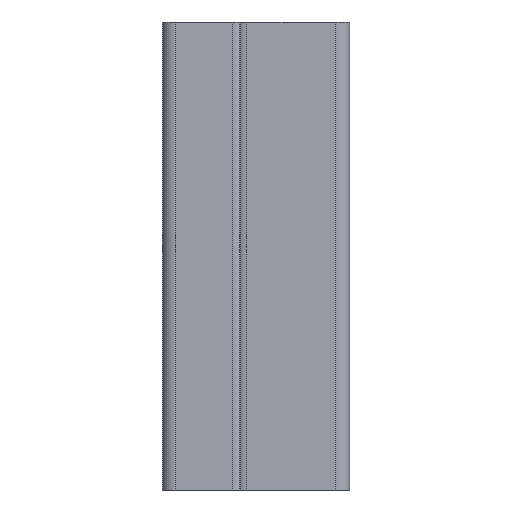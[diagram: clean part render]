
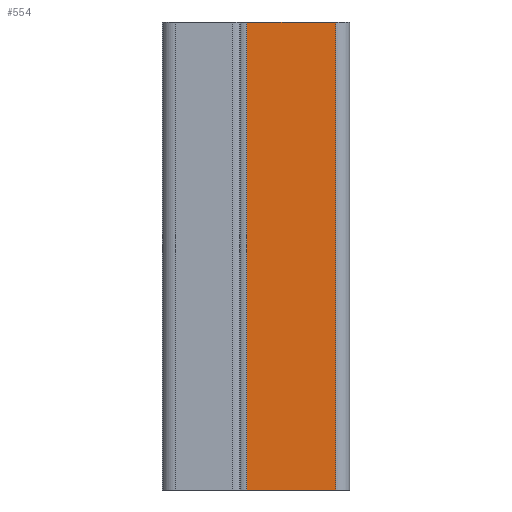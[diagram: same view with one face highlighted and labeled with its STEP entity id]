
A CAD part, left-side view. The second image highlights one B-rep face of the part: STEP entity #554.
In plain terms, the highlighted planar face has unit normal (-1, 0, 0).
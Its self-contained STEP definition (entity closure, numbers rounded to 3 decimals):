
#7 = EDGE_CURVE ( 'NONE', #1720, #1579, #39, .T. ) ;
#39 = LINE ( 'NONE', #763, #499 ) ;
#101 = CARTESIAN_POINT ( 'NONE',  ( -12.5, 9.5, 100. ) ) ;
#125 = EDGE_CURVE ( 'NONE', #539, #1720, #444, .T. ) ;
#153 = FACE_OUTER_BOUND ( 'NONE', #927, .T. ) ;
#233 = DIRECTION ( 'NONE',  ( 1., 0., 0. ) ) ;
#315 = VECTOR ( 'NONE', #1785, 1000. ) ;
#437 = CARTESIAN_POINT ( 'NONE',  ( -12.5, 9.5, 100. ) ) ;
#444 = LINE ( 'NONE', #1024, #1328 ) ;
#484 = CARTESIAN_POINT ( 'NONE',  ( -12.5, -9.5, 0. ) ) ;
#499 = VECTOR ( 'NONE', #1813, 1000. ) ;
#539 = VERTEX_POINT ( 'NONE', #101 ) ;
#554 = ADVANCED_FACE ( 'NONE', ( #153 ), #1871, .F. ) ;
#649 = LINE ( 'NONE', #437, #1862 ) ;
#763 = CARTESIAN_POINT ( 'NONE',  ( -12.5, -9.5, 100. ) ) ;
#801 = ORIENTED_EDGE ( 'NONE', *, *, #125, .F. ) ;
#829 = CARTESIAN_POINT ( 'NONE',  ( -12.5, -9.5, 100. ) ) ;
#844 = ORIENTED_EDGE ( 'NONE', *, *, #1532, .T. ) ;
#882 = VERTEX_POINT ( 'NONE', #1366 ) ;
#923 = CARTESIAN_POINT ( 'NONE',  ( -12.5, -9.5, 100. ) ) ;
#927 = EDGE_LOOP ( 'NONE', ( #844, #1097, #801, #1099 ) ) ;
#1024 = CARTESIAN_POINT ( 'NONE',  ( -12.5, -9.5, 100. ) ) ;
#1031 = DIRECTION ( 'NONE',  ( 0., 0., -1. ) ) ;
#1039 = CARTESIAN_POINT ( 'NONE',  ( -12.5, -9.5, 0. ) ) ;
#1097 = ORIENTED_EDGE ( 'NONE', *, *, #7, .F. ) ;
#1099 = ORIENTED_EDGE ( 'NONE', *, *, #1525, .T. ) ;
#1103 = LINE ( 'NONE', #1039, #315 ) ;
#1108 = DIRECTION ( 'NONE',  ( 0., 1., 0. ) ) ;
#1328 = VECTOR ( 'NONE', #1470, 1000. ) ;
#1366 = CARTESIAN_POINT ( 'NONE',  ( -12.5, 9.5, 0. ) ) ;
#1470 = DIRECTION ( 'NONE',  ( 0., -1., 0. ) ) ;
#1525 = EDGE_CURVE ( 'NONE', #539, #882, #649, .T. ) ;
#1532 = EDGE_CURVE ( 'NONE', #882, #1579, #1103, .T. ) ;
#1579 = VERTEX_POINT ( 'NONE', #484 ) ;
#1720 = VERTEX_POINT ( 'NONE', #923 ) ;
#1785 = DIRECTION ( 'NONE',  ( 0., -1., 0. ) ) ;
#1813 = DIRECTION ( 'NONE',  ( 0., 0., -1. ) ) ;
#1815 = AXIS2_PLACEMENT_3D ( 'NONE', #829, #233, #1108 ) ;
#1862 = VECTOR ( 'NONE', #1031, 1000. ) ;
#1871 = PLANE ( 'NONE',  #1815 ) ;
